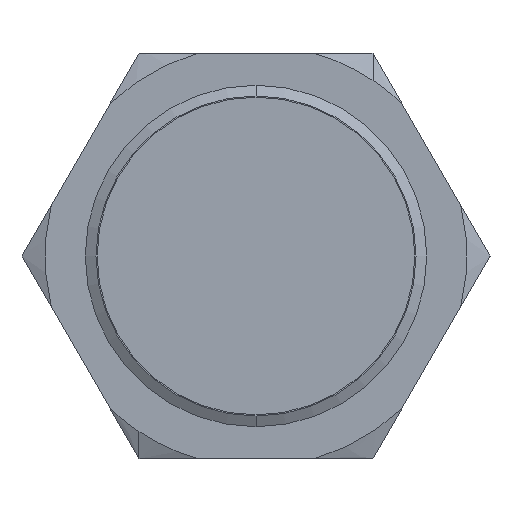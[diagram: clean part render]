
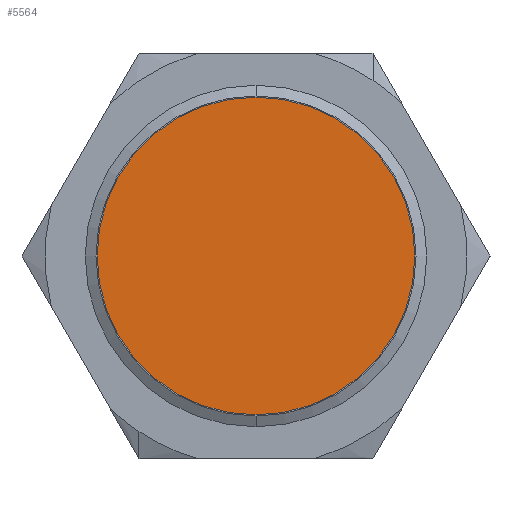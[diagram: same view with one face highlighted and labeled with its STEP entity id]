
A CAD part, left-side view. The second image highlights one B-rep face of the part: STEP entity #5564.
In plain terms, the highlighted planar face has unit normal (-1, 0, 0).
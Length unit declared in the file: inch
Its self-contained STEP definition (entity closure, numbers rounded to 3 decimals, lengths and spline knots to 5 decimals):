
#974 = VERTEX_POINT ( 'NONE', #7314 ) ;
#1221 = VERTEX_POINT ( 'NONE', #7390 ) ;
#1464 = EDGE_CURVE ( 'NONE', #1221, #974, #7533, .T. ) ;
#5208 = EDGE_CURVE ( 'NONE', #974, #1221, #9569, .T. ) ;
#5291 = ORIENTED_EDGE ( 'NONE', *, *, #5208, .F. ) ;
#5403 = ORIENTED_EDGE ( 'NONE', *, *, #1464, .F. ) ;
#5520 = EDGE_LOOP ( 'NONE', ( #5403, #5291 ) ) ;
#5564 = ADVANCED_FACE ( 'NONE', ( #11231 ), #11232, .F. ) ;
#7314 = CARTESIAN_POINT ( 'NONE',  ( -0.03, 0.591, 0.55 ) ) ;
#7390 = CARTESIAN_POINT ( 'NONE',  ( -0.03, 0.591, -0.55 ) ) ;
#7533 = CIRCLE ( 'NONE', #7534, 0.55 ) ;
#7534 = AXIS2_PLACEMENT_3D ( 'NONE', #7535, #7536, #7537 ) ;
#7535 = CARTESIAN_POINT ( 'NONE',  ( -0.03, 0.591, 0. ) ) ;
#7536 = DIRECTION ( 'NONE',  ( 1., 0., 0. ) ) ;
#7537 = DIRECTION ( 'NONE',  ( 0., 0., -1. ) ) ;
#9569 = CIRCLE ( 'NONE', #9570, 0.55 ) ;
#9570 = AXIS2_PLACEMENT_3D ( 'NONE', #9571, #9572, #9573 ) ;
#9571 = CARTESIAN_POINT ( 'NONE',  ( -0.03, 0.591, 0. ) ) ;
#9572 = DIRECTION ( 'NONE',  ( 1., 0., 0. ) ) ;
#9573 = DIRECTION ( 'NONE',  ( 0., 0., -1. ) ) ;
#11231 = FACE_OUTER_BOUND ( 'NONE', #5520, .T. ) ;
#11232 = PLANE ( 'NONE',  #11233 ) ;
#11233 = AXIS2_PLACEMENT_3D ( 'NONE', #11234, #11235, #11236 ) ;
#11234 = CARTESIAN_POINT ( 'NONE',  ( -0.03, 0.591, 0. ) ) ;
#11235 = DIRECTION ( 'NONE',  ( 1., 0., 0. ) ) ;
#11236 = DIRECTION ( 'NONE',  ( 0., 0., -1. ) ) ;
